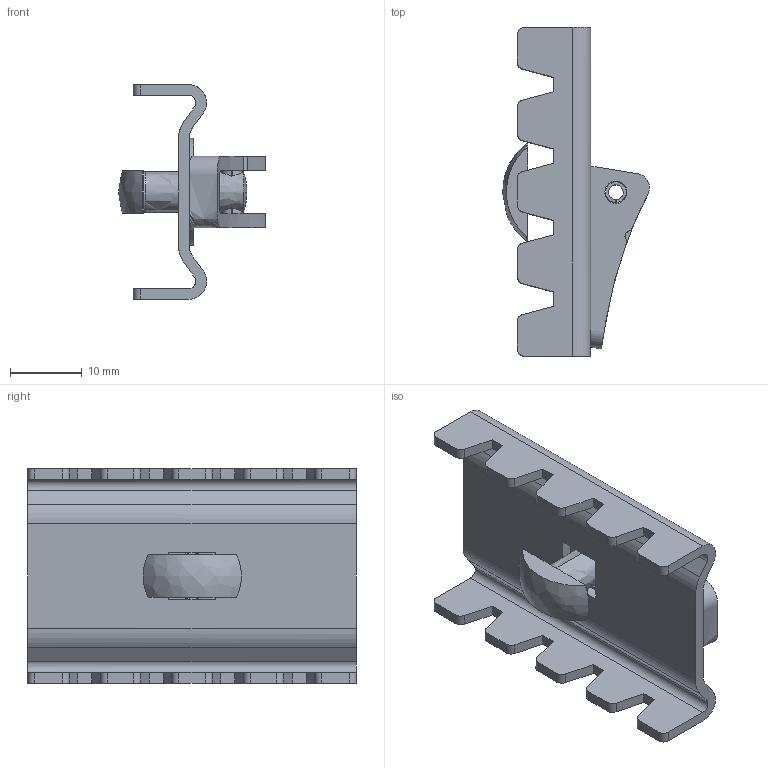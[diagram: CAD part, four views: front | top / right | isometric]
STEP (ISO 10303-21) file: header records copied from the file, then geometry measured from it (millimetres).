
FILE_DESCRIPTION(/* description */ (''),/* implementation_level */ '2;1');
FILE_NAME(/* name */ 'SZM1-R',/* time_stamp */ '2013-11-22T10:20:41+01:00',/* author */ (''),/* organization */ (''),/* preprocessor_version */ 'ST-DEVELOPER v10',/* originating_system */ '',/* authorisation */ '');
FILE_SCHEMA (('AUTOMOTIVE_DESIGN_CC2'));
Length unit declared in the file: millimetre
Products named in the file (1): 1
Bounding box: 20.54 x 46 x 30 mm (x, y, z)
Volume: 5766.1 mm3; surface area: 6385.7 mm2
Topology: 6 solids, 6 shells, 125 faces, 356 edges, 240 vertices
Faces by surface type: bspline 63, plane 62
Entity records: 4546 total; most frequent: CARTESIAN_POINT 2352, ORIENTED_EDGE 702, EDGE_CURVE 351, VERTEX_POINT 237, B_SPLINE_CURVE_WITH_KNOTS 230, EDGE_LOOP 132, ADVANCED_FACE 124, FACE_OUTER_BOUND 124
